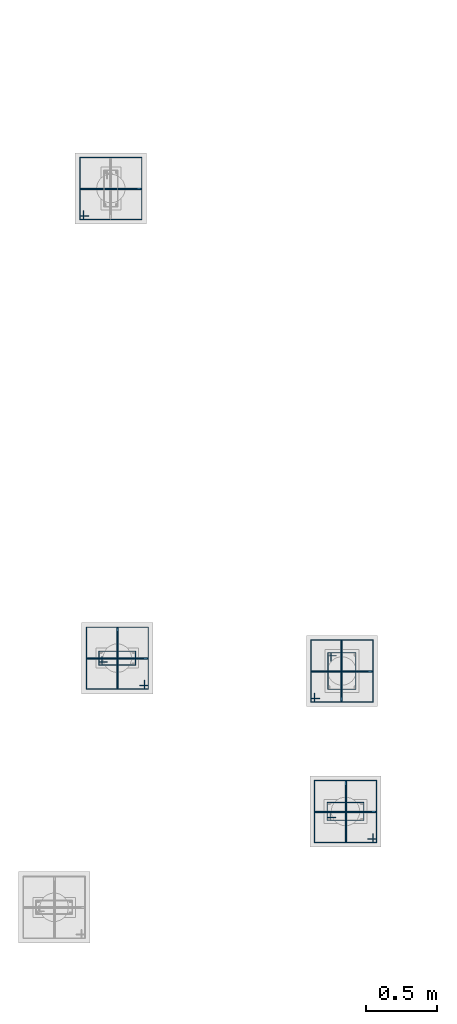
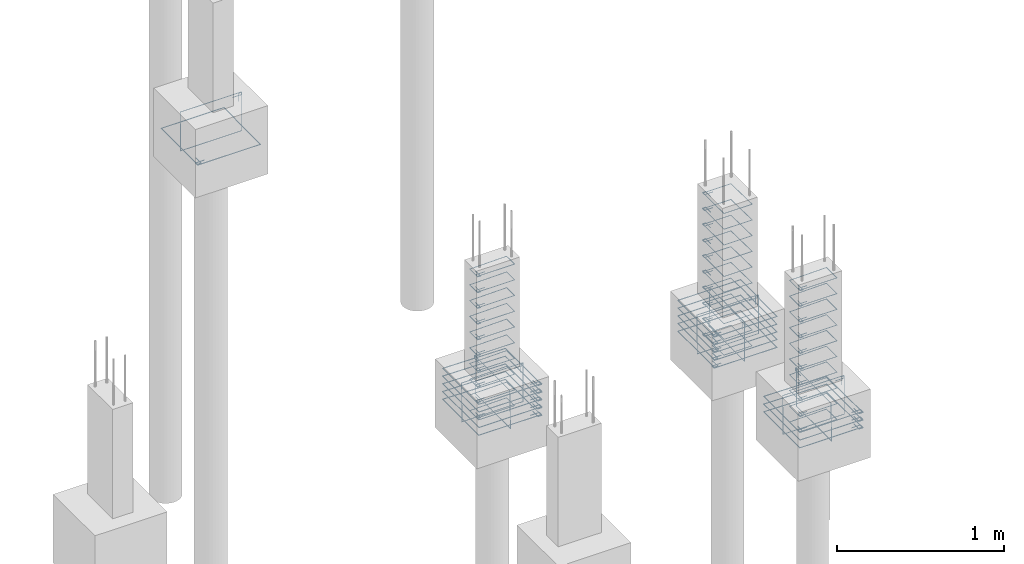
# One storey, part 90 of 119: 51 reinforcing bars.
"""IFC4 building model written with IfcOpenShell, lengths in centimetres."""

from ifc_helpers import new_model, entity, si_unit, derived_unit, frame, origin_with_axes, place, context, project, spatial, source, transform, mapped, element, save


model = new_model("IFC4")

# Units and contexts
model_context = context("Model", 3, precision=1e-05, world=origin_with_axes(), identifier="Body")
ifc_project = project(units=[si_unit("LENGTHUNIT", "METRE", prefix="CENTI"), si_unit("VOLUMEUNIT", "CUBIC_METRE"), si_unit("AREAUNIT", "SQUARE_METRE"), si_unit("POWERUNIT", "WATT"), si_unit("LUMINOUSFLUXUNIT", "LUMEN"), si_unit("ELECTRICCURRENTUNIT", "AMPERE"), si_unit("PRESSUREUNIT", "PASCAL", prefix="KILO"), si_unit("MASSUNIT", "GRAM", prefix="KILO"), si_unit("PLANEANGLEUNIT", "RADIAN"), derived_unit("VOLUMETRICFLOWRATEUNIT", [(si_unit("LENGTHUNIT", "METRE"), 3), (si_unit("TIMEUNIT", "SECOND"), -1)])], contexts=[model_context])

# Site, building, storey
site_placement = place(None, frame((-4000.0, 0.0, 0.0), z_axis=(0.0, 0.0, 1.0), x_axis=(1.0, 0.0, 0.0)))
site = spatial("IfcSite", under=ifc_project, at=site_placement, Name="PADRÃO")
building_placement = place(site_placement, frame((0.0, 0.0, -14.0)))
building = spatial("IfcBuilding", under=site, at=building_placement, Name="CRECHE PRÉ-ESCOLA TIPO 2")
storey_placement = place(building_placement, origin_with_axes())
storey = spatial("IfcBuildingStorey", under=building, at=storey_placement, Name="FUNDAÇÃO", CompositionType="ELEMENT", Elevation=-14.0)

# Reinforcing bars
shared_shape_1 = source(origin_with_axes(), model_context, "Body", "AdvancedSweptSolid", [
    entity("IfcSweptDiskSolid", entity("IfcCompositeCurve", [entity("IfcCompositeCurveSegment", "CONTINUOUS", True, entity("IfcPolyline", [entity("IfcCartesianPoint", [4.25, 21.75, 0.0]), entity("IfcCartesianPoint", [4.25, 27.75, 0.0])])), entity("IfcCompositeCurveSegment", "CONTINUOUS", True, entity("IfcPolyline", [entity("IfcCartesianPoint", [4.25, 27.75, 0.0]), entity("IfcCartesianPoint", [2.25, 27.75, 0.0])])), entity("IfcCompositeCurveSegment", "CONTINUOUS", True, entity("IfcPolyline", [entity("IfcCartesianPoint", [2.25, 27.75, 0.0]), entity("IfcCartesianPoint", [2.25, 2.25, 0.0])])), entity("IfcCompositeCurveSegment", "CONTINUOUS", True, entity("IfcPolyline", [entity("IfcCartesianPoint", [2.25, 2.25, 0.0]), entity("IfcCartesianPoint", [11.75, 2.25, 0.0])])), entity("IfcCompositeCurveSegment", "CONTINUOUS", True, entity("IfcPolyline", [entity("IfcCartesianPoint", [11.75, 2.25, 0.0]), entity("IfcCartesianPoint", [11.75, 27.75, -0.5])])), entity("IfcCompositeCurveSegment", "CONTINUOUS", True, entity("IfcPolyline", [entity("IfcCartesianPoint", [11.75, 27.75, -0.5]), entity("IfcCartesianPoint", [2.25, 27.75, -0.5])])), entity("IfcCompositeCurveSegment", "CONTINUOUS", True, entity("IfcPolyline", [entity("IfcCartesianPoint", [2.25, 27.75, -0.5]), entity("IfcCartesianPoint", [2.25, 25.75, -0.5])])), entity("IfcCompositeCurveSegment", "CONTINUOUS", True, entity("IfcPolyline", [entity("IfcCartesianPoint", [2.25, 25.75, -0.5]), entity("IfcCartesianPoint", [8.25, 25.75, -0.5])]))], False), 0.25),
])
for number, where, z_axis, x_axis, name in (
    (1, (3002.5, 1915.52, -86.25), (0.0, 0.0, 1.0), (0.0, 1.0, 0.0), "P91 - Estribo"),
    (2, (3002.5, 1915.52, -63.25), (0.0, 0.0, 1.0), (0.0, 1.0, 0.0), "P91 - Estribo"),
    (3, (3002.5, 1915.52, -40.25), (0.0, 0.0, 1.0), (0.0, 1.0, 0.0), "P91 - Estribo"),
    (4, (3002.5, 1915.52, -28.75), (0.0, 0.0, 1.0), (0.0, 1.0, 0.0), "P91 - Estribo"),
    (5, (3002.5, 1915.52, -51.75), (0.0, 0.0, 1.0), (0.0, 1.0, 0.0), "P91 - Estribo"),
    (6, (3002.5, 1915.52, -17.25), (0.0, 0.0, 1.0), (0.0, 1.0, 0.0), "P91 - Estribo"),
    (7, (3002.5, 1915.52, -5.75), (0.0, 0.0, 1.0), (0.0, 1.0, 0.0), "P91 - Estribo"),
    (8, (3002.5, 1915.52, -109.25), (0.0, 0.0, 1.0), (0.0, 1.0, 0.0), "P91 - Estribo"),
    (9, (3002.5, 1915.52, -97.75), (0.0, 0.0, 1.0), (0.0, 1.0, 0.0), "P91 - Estribo"),
    (10, (3002.5, 1915.52, -74.75), (0.0, 0.0, 1.0), (0.0, 1.0, 0.0), "P91 - Estribo"),
):
    element("IfcReinforcingBar", number, at=place(storey_placement, frame(where, z_axis=z_axis, x_axis=x_axis)), inside=storey, Name=name, BarLength=0.0, CrossSectionArea=1.9634954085e-05, NominalDiameter=0.5, PredefinedType="MAIN", context=model_context, shape_type="MappedRepresentation", body=[
        mapped(shared_shape_1, transform((0.0, 0.0, 0.0), scale=1.0)),
    ])
shared_shape_2 = source(origin_with_axes(), model_context, "Body", "AdvancedSweptSolid", [
    entity("IfcSweptDiskSolid", entity("IfcCompositeCurve", [entity("IfcCompositeCurveSegment", "CONTINUOUS", True, entity("IfcPolyline", [entity("IfcCartesianPoint", [3006.665, 1907.095, 0.0]), entity("IfcCartesianPoint", [3006.665, 1900.835, 0.0])])), entity("IfcCompositeCurveSegment", "CONTINUOUS", True, entity("IfcPolyline", [entity("IfcCartesianPoint", [3006.665, 1900.835, 0.0]), entity("IfcCartesianPoint", [3009.185, 1900.835, 0.0])])), entity("IfcCompositeCurveSegment", "CONTINUOUS", True, entity("IfcPolyline", [entity("IfcCartesianPoint", [3009.185, 1900.835, 0.0]), entity("IfcCartesianPoint", [3009.185, 1944.205, 0.0])])), entity("IfcCompositeCurveSegment", "CONTINUOUS", True, entity("IfcPolyline", [entity("IfcCartesianPoint", [3009.185, 1944.205, 0.0]), entity("IfcCartesianPoint", [2965.815, 1944.205, 0.63])])), entity("IfcCompositeCurveSegment", "CONTINUOUS", True, entity("IfcPolyline", [entity("IfcCartesianPoint", [2965.815, 1944.205, 0.63]), entity("IfcCartesianPoint", [2965.815, 1900.835, 0.63])])), entity("IfcCompositeCurveSegment", "CONTINUOUS", True, entity("IfcPolyline", [entity("IfcCartesianPoint", [2965.815, 1900.835, 0.63]), entity("IfcCartesianPoint", [3009.185, 1900.835, 0.63])])), entity("IfcCompositeCurveSegment", "CONTINUOUS", True, entity("IfcPolyline", [entity("IfcCartesianPoint", [3009.185, 1900.835, 0.63]), entity("IfcCartesianPoint", [3009.185, 1903.355, 0.63])])), entity("IfcCompositeCurveSegment", "CONTINUOUS", True, entity("IfcPolyline", [entity("IfcCartesianPoint", [3009.185, 1903.355, 0.63]), entity("IfcCartesianPoint", [3002.925, 1903.355, 0.63])]))], False), 0.315),
])
for number, where, z_axis, x_axis, name in (
    (11, (0.0, 0.0, -103.525), (0.0, 0.0, 1.0), (1.0, 0.0, 0.0), "P91 - Blocos (estribos)"),
    (12, (0.0, 0.0, -86.575), (0.0, 0.0, 1.0), (1.0, 0.0, 0.0), "P91 - Blocos (estribos)"),
    (13, (0.0, 0.0, -97.875), (0.0, 0.0, 1.0), (1.0, 0.0, 0.0), "P91 - Blocos (estribos)"),
    (14, (0.0, 0.0, -92.225), (0.0, 0.0, 1.0), (1.0, 0.0, 0.0), "P91 - Blocos (estribos)"),
    (15, (0.0, 0.0, -109.175), (0.0, 0.0, 1.0), (1.0, 0.0, 0.0), "P91 - Blocos (estribos)"),
):
    element("IfcReinforcingBar", number, at=place(storey_placement, frame(where, z_axis=z_axis, x_axis=x_axis)), inside=storey, Name=name, BarLength=0.0, CrossSectionArea=3.1172453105e-05, NominalDiameter=0.63, PredefinedType="MAIN", context=model_context, shape_type="MappedRepresentation", body=[
        mapped(shared_shape_2, transform((0.0, 0.0, 0.0), scale=1.0)),
    ])
shared_shape_3 = source(origin_with_axes(), model_context, "Body", "AdvancedSweptSolid", [
    entity("IfcSweptDiskSolid", entity("IfcCompositeCurve", [entity("IfcCompositeCurveSegment", "CONTINUOUS", True, entity("IfcPolyline", [entity("IfcCartesianPoint", [-15.12, -12.0, 0.0]), entity("IfcCartesianPoint", [-21.12, -12.0, 0.0])])), entity("IfcCompositeCurveSegment", "CONTINUOUS", True, entity("IfcPolyline", [entity("IfcCartesianPoint", [-21.12, -12.0, 0.0]), entity("IfcCartesianPoint", [-21.12, -14.0, 0.0])])), entity("IfcCompositeCurveSegment", "CONTINUOUS", True, entity("IfcPolyline", [entity("IfcCartesianPoint", [-21.12, -14.0, 0.0]), entity("IfcCartesianPoint", [21.12, -14.0, 0.0])])), entity("IfcCompositeCurveSegment", "CONTINUOUS", True, entity("IfcPolyline", [entity("IfcCartesianPoint", [21.12, -14.0, 0.0]), entity("IfcCartesianPoint", [21.12, 14.0, 0.5])])), entity("IfcCompositeCurveSegment", "CONTINUOUS", True, entity("IfcPolyline", [entity("IfcCartesianPoint", [21.12, 14.0, 0.5]), entity("IfcCartesianPoint", [-21.12, 14.0, 0.5])])), entity("IfcCompositeCurveSegment", "CONTINUOUS", True, entity("IfcPolyline", [entity("IfcCartesianPoint", [-21.12, 14.0, 0.5]), entity("IfcCartesianPoint", [-21.12, -14.0, 0.5])])), entity("IfcCompositeCurveSegment", "CONTINUOUS", True, entity("IfcPolyline", [entity("IfcCartesianPoint", [-21.12, -14.0, 0.5]), entity("IfcCartesianPoint", [-19.12, -14.0, 0.5])])), entity("IfcCompositeCurveSegment", "CONTINUOUS", True, entity("IfcPolyline", [entity("IfcCartesianPoint", [-19.12, -14.0, 0.5]), entity("IfcCartesianPoint", [-19.12, -8.0, 0.5])]))], False), 0.25),
])
reinforcing_bar_1_placement = place(storey_placement, frame((2987.5, 1922.52, -97.75), z_axis=(0.0, -1.0, 0.0), x_axis=(-1.0, 0.0, 0.0)))
element("IfcReinforcingBar", 16, at=reinforcing_bar_1_placement, inside=storey, Name="P91 - Blocos (estribos)", BarLength=0.0, CrossSectionArea=1.9634954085e-05, NominalDiameter=0.5, PredefinedType="MAIN", context=model_context, shape_type="MappedRepresentation", body=[
    mapped(shared_shape_3, transform((0.0, 0.0, 0.0), scale=1.0)),
])
shared_shape_4 = source(origin_with_axes(), model_context, "Body", "AdvancedSweptSolid", [
    entity("IfcSweptDiskSolid", entity("IfcCompositeCurve", [entity("IfcCompositeCurveSegment", "CONTINUOUS", True, entity("IfcPolyline", [entity("IfcCartesianPoint", [-15.12, -12.0, 0.0]), entity("IfcCartesianPoint", [-21.12, -12.0, 0.0])])), entity("IfcCompositeCurveSegment", "CONTINUOUS", True, entity("IfcPolyline", [entity("IfcCartesianPoint", [-21.12, -12.0, 0.0]), entity("IfcCartesianPoint", [-21.12, -14.0, 0.0])])), entity("IfcCompositeCurveSegment", "CONTINUOUS", True, entity("IfcPolyline", [entity("IfcCartesianPoint", [-21.12, -14.0, 0.0]), entity("IfcCartesianPoint", [21.12, -14.0, 0.0])])), entity("IfcCompositeCurveSegment", "CONTINUOUS", True, entity("IfcPolyline", [entity("IfcCartesianPoint", [21.12, -14.0, 0.0]), entity("IfcCartesianPoint", [21.12, 14.0, 0.5])])), entity("IfcCompositeCurveSegment", "CONTINUOUS", True, entity("IfcPolyline", [entity("IfcCartesianPoint", [21.12, 14.0, 0.5]), entity("IfcCartesianPoint", [-21.12, 14.0, 0.5])])), entity("IfcCompositeCurveSegment", "CONTINUOUS", True, entity("IfcPolyline", [entity("IfcCartesianPoint", [-21.12, 14.0, 0.5]), entity("IfcCartesianPoint", [-21.12, -14.0, 0.5])])), entity("IfcCompositeCurveSegment", "CONTINUOUS", True, entity("IfcPolyline", [entity("IfcCartesianPoint", [-21.12, -14.0, 0.5]), entity("IfcCartesianPoint", [-19.12, -14.0, 0.5])])), entity("IfcCompositeCurveSegment", "CONTINUOUS", True, entity("IfcPolyline", [entity("IfcCartesianPoint", [-19.12, -14.0, 0.5]), entity("IfcCartesianPoint", [-19.12, -8.0, 0.5])]))], False), 0.25),
])
reinforcing_bar_2_placement = place(storey_placement, frame((2987.5, 1922.52, -97.75), z_axis=(1.0, 0.0, 0.0), x_axis=(0.0, -1.0, 0.0)))
element("IfcReinforcingBar", 17, at=reinforcing_bar_2_placement, inside=storey, Name="P91 - Blocos (estribos)", BarLength=0.0, CrossSectionArea=1.9634954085e-05, NominalDiameter=0.5, PredefinedType="MAIN", context=model_context, shape_type="MappedRepresentation", body=[
    mapped(shared_shape_4, transform((0.0, 0.0, 0.0), scale=1.0)),
])
shared_shape_5 = source(origin_with_axes(), model_context, "Body", "AdvancedSweptSolid", [
    entity("IfcSweptDiskSolid", entity("IfcCompositeCurve", [entity("IfcCompositeCurveSegment", "CONTINUOUS", True, entity("IfcPolyline", [entity("IfcCartesianPoint", [4.25, 21.75, 0.0]), entity("IfcCartesianPoint", [4.25, 27.75, 0.0])])), entity("IfcCompositeCurveSegment", "CONTINUOUS", True, entity("IfcPolyline", [entity("IfcCartesianPoint", [4.25, 27.75, 0.0]), entity("IfcCartesianPoint", [2.25, 27.75, 0.0])])), entity("IfcCompositeCurveSegment", "CONTINUOUS", True, entity("IfcPolyline", [entity("IfcCartesianPoint", [2.25, 27.75, 0.0]), entity("IfcCartesianPoint", [2.25, 2.25, 0.0])])), entity("IfcCompositeCurveSegment", "CONTINUOUS", True, entity("IfcPolyline", [entity("IfcCartesianPoint", [2.25, 2.25, 0.0]), entity("IfcCartesianPoint", [14.75, 2.25, 0.0])])), entity("IfcCompositeCurveSegment", "CONTINUOUS", True, entity("IfcPolyline", [entity("IfcCartesianPoint", [14.75, 2.25, 0.0]), entity("IfcCartesianPoint", [14.75, 27.75, -0.5])])), entity("IfcCompositeCurveSegment", "CONTINUOUS", True, entity("IfcPolyline", [entity("IfcCartesianPoint", [14.75, 27.75, -0.5]), entity("IfcCartesianPoint", [2.25, 27.75, -0.5])])), entity("IfcCompositeCurveSegment", "CONTINUOUS", True, entity("IfcPolyline", [entity("IfcCartesianPoint", [2.25, 27.75, -0.5]), entity("IfcCartesianPoint", [2.25, 25.75, -0.5])])), entity("IfcCompositeCurveSegment", "CONTINUOUS", True, entity("IfcPolyline", [entity("IfcCartesianPoint", [2.25, 25.75, -0.5]), entity("IfcCartesianPoint", [8.25, 25.75, -0.5])]))], False), 0.25),
])
for number, where, z_axis, x_axis, name in (
    (18, (3162.5, 1806.52, -109.25), (0.0, 0.0, 1.0), (0.0, 1.0, 0.0), "P96 - Estribo"),
    (19, (3162.5, 1806.52, -97.75), (0.0, 0.0, 1.0), (0.0, 1.0, 0.0), "P96 - Estribo"),
    (20, (3162.5, 1806.52, -86.25), (0.0, 0.0, 1.0), (0.0, 1.0, 0.0), "P96 - Estribo"),
    (21, (3162.5, 1806.52, -28.75), (0.0, 0.0, 1.0), (0.0, 1.0, 0.0), "P96 - Estribo"),
    (22, (3162.5, 1806.52, -40.25), (0.0, 0.0, 1.0), (0.0, 1.0, 0.0), "P96 - Estribo"),
    (23, (3162.5, 1806.52, -51.75), (0.0, 0.0, 1.0), (0.0, 1.0, 0.0), "P96 - Estribo"),
    (24, (3162.5, 1806.52, -63.25), (0.0, 0.0, 1.0), (0.0, 1.0, 0.0), "P96 - Estribo"),
    (25, (3162.5, 1806.52, -74.75), (0.0, 0.0, 1.0), (0.0, 1.0, 0.0), "P96 - Estribo"),
    (26, (3162.5, 1806.52, -17.25), (0.0, 0.0, 1.0), (0.0, 1.0, 0.0), "P96 - Estribo"),
    (27, (3162.5, 1806.52, -5.75), (0.0, 0.0, 1.0), (0.0, 1.0, 0.0), "P96 - Estribo"),
):
    element("IfcReinforcingBar", number, at=place(storey_placement, frame(where, z_axis=z_axis, x_axis=x_axis)), inside=storey, Name=name, BarLength=0.0, CrossSectionArea=1.9634954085e-05, NominalDiameter=0.5, PredefinedType="MAIN", context=model_context, shape_type="MappedRepresentation", body=[
        mapped(shared_shape_5, transform((0.0, 0.0, 0.0), scale=1.0)),
    ])
shared_shape_6 = source(origin_with_axes(), model_context, "Body", "AdvancedSweptSolid", [
    entity("IfcSweptDiskSolid", entity("IfcCompositeCurve", [entity("IfcCompositeCurveSegment", "CONTINUOUS", True, entity("IfcPolyline", [entity("IfcCartesianPoint", [3166.665, 1799.595, 0.0]), entity("IfcCartesianPoint", [3166.665, 1793.335, 0.0])])), entity("IfcCompositeCurveSegment", "CONTINUOUS", True, entity("IfcPolyline", [entity("IfcCartesianPoint", [3166.665, 1793.335, 0.0]), entity("IfcCartesianPoint", [3169.185, 1793.335, 0.0])])), entity("IfcCompositeCurveSegment", "CONTINUOUS", True, entity("IfcPolyline", [entity("IfcCartesianPoint", [3169.185, 1793.335, 0.0]), entity("IfcCartesianPoint", [3169.185, 1836.705, 0.0])])), entity("IfcCompositeCurveSegment", "CONTINUOUS", True, entity("IfcPolyline", [entity("IfcCartesianPoint", [3169.185, 1836.705, 0.0]), entity("IfcCartesianPoint", [3125.815, 1836.705, 0.63])])), entity("IfcCompositeCurveSegment", "CONTINUOUS", True, entity("IfcPolyline", [entity("IfcCartesianPoint", [3125.815, 1836.705, 0.63]), entity("IfcCartesianPoint", [3125.815, 1793.335, 0.63])])), entity("IfcCompositeCurveSegment", "CONTINUOUS", True, entity("IfcPolyline", [entity("IfcCartesianPoint", [3125.815, 1793.335, 0.63]), entity("IfcCartesianPoint", [3169.185, 1793.335, 0.63])])), entity("IfcCompositeCurveSegment", "CONTINUOUS", True, entity("IfcPolyline", [entity("IfcCartesianPoint", [3169.185, 1793.335, 0.63]), entity("IfcCartesianPoint", [3169.185, 1795.855, 0.63])])), entity("IfcCompositeCurveSegment", "CONTINUOUS", True, entity("IfcPolyline", [entity("IfcCartesianPoint", [3169.185, 1795.855, 0.63]), entity("IfcCartesianPoint", [3162.925, 1795.855, 0.63])]))], False), 0.315),
])
for number, where, z_axis, x_axis, name in (
    (28, (0.0, 0.0, -109.175), (0.0, 0.0, 1.0), (1.0, 0.0, 0.0), "P96 - Blocos (estribos)"),
    (29, (0.0, 0.0, -103.525), (0.0, 0.0, 1.0), (1.0, 0.0, 0.0), "P96 - Blocos (estribos)"),
    (30, (0.0, 0.0, -97.875), (0.0, 0.0, 1.0), (1.0, 0.0, 0.0), "P96 - Blocos (estribos)"),
):
    element("IfcReinforcingBar", number, at=place(storey_placement, frame(where, z_axis=z_axis, x_axis=x_axis)), inside=storey, Name=name, BarLength=0.0, CrossSectionArea=3.1172453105e-05, NominalDiameter=0.63, PredefinedType="MAIN", context=model_context, shape_type="MappedRepresentation", body=[
        mapped(shared_shape_6, transform((0.0, 0.0, 0.0), scale=1.0)),
    ])
shared_shape_7 = source(origin_with_axes(), model_context, "Body", "AdvancedSweptSolid", [
    entity("IfcSweptDiskSolid", entity("IfcCompositeCurve", [entity("IfcCompositeCurveSegment", "CONTINUOUS", True, entity("IfcPolyline", [entity("IfcCartesianPoint", [-15.12, -12.0, 0.0]), entity("IfcCartesianPoint", [-21.12, -12.0, 0.0])])), entity("IfcCompositeCurveSegment", "CONTINUOUS", True, entity("IfcPolyline", [entity("IfcCartesianPoint", [-21.12, -12.0, 0.0]), entity("IfcCartesianPoint", [-21.12, -14.0, 0.0])])), entity("IfcCompositeCurveSegment", "CONTINUOUS", True, entity("IfcPolyline", [entity("IfcCartesianPoint", [-21.12, -14.0, 0.0]), entity("IfcCartesianPoint", [21.12, -14.0, 0.0])])), entity("IfcCompositeCurveSegment", "CONTINUOUS", True, entity("IfcPolyline", [entity("IfcCartesianPoint", [21.12, -14.0, 0.0]), entity("IfcCartesianPoint", [21.12, 14.0, 0.5])])), entity("IfcCompositeCurveSegment", "CONTINUOUS", True, entity("IfcPolyline", [entity("IfcCartesianPoint", [21.12, 14.0, 0.5]), entity("IfcCartesianPoint", [-21.12, 14.0, 0.5])])), entity("IfcCompositeCurveSegment", "CONTINUOUS", True, entity("IfcPolyline", [entity("IfcCartesianPoint", [-21.12, 14.0, 0.5]), entity("IfcCartesianPoint", [-21.12, -14.0, 0.5])])), entity("IfcCompositeCurveSegment", "CONTINUOUS", True, entity("IfcPolyline", [entity("IfcCartesianPoint", [-21.12, -14.0, 0.5]), entity("IfcCartesianPoint", [-19.12, -14.0, 0.5])])), entity("IfcCompositeCurveSegment", "CONTINUOUS", True, entity("IfcPolyline", [entity("IfcCartesianPoint", [-19.12, -14.0, 0.5]), entity("IfcCartesianPoint", [-19.12, -8.0, 0.5])]))], False), 0.25),
])
reinforcing_bar_3_placement = place(storey_placement, frame((3147.5, 1815.02, -97.75), z_axis=(0.0, -1.0, 0.0), x_axis=(-1.0, 0.0, 0.0)))
element("IfcReinforcingBar", 31, at=reinforcing_bar_3_placement, inside=storey, Name="P96 - Blocos (estribos)", BarLength=0.0, CrossSectionArea=1.9634954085e-05, NominalDiameter=0.5, PredefinedType="MAIN", context=model_context, shape_type="MappedRepresentation", body=[
    mapped(shared_shape_7, transform((0.0, 0.0, 0.0), scale=1.0)),
])
shared_shape_8 = source(origin_with_axes(), model_context, "Body", "AdvancedSweptSolid", [
    entity("IfcSweptDiskSolid", entity("IfcCompositeCurve", [entity("IfcCompositeCurveSegment", "CONTINUOUS", True, entity("IfcPolyline", [entity("IfcCartesianPoint", [-15.12, -12.0, 0.0]), entity("IfcCartesianPoint", [-21.12, -12.0, 0.0])])), entity("IfcCompositeCurveSegment", "CONTINUOUS", True, entity("IfcPolyline", [entity("IfcCartesianPoint", [-21.12, -12.0, 0.0]), entity("IfcCartesianPoint", [-21.12, -14.0, 0.0])])), entity("IfcCompositeCurveSegment", "CONTINUOUS", True, entity("IfcPolyline", [entity("IfcCartesianPoint", [-21.12, -14.0, 0.0]), entity("IfcCartesianPoint", [21.12, -14.0, 0.0])])), entity("IfcCompositeCurveSegment", "CONTINUOUS", True, entity("IfcPolyline", [entity("IfcCartesianPoint", [21.12, -14.0, 0.0]), entity("IfcCartesianPoint", [21.12, 14.0, 0.5])])), entity("IfcCompositeCurveSegment", "CONTINUOUS", True, entity("IfcPolyline", [entity("IfcCartesianPoint", [21.12, 14.0, 0.5]), entity("IfcCartesianPoint", [-21.12, 14.0, 0.5])])), entity("IfcCompositeCurveSegment", "CONTINUOUS", True, entity("IfcPolyline", [entity("IfcCartesianPoint", [-21.12, 14.0, 0.5]), entity("IfcCartesianPoint", [-21.12, -14.0, 0.5])])), entity("IfcCompositeCurveSegment", "CONTINUOUS", True, entity("IfcPolyline", [entity("IfcCartesianPoint", [-21.12, -14.0, 0.5]), entity("IfcCartesianPoint", [-19.12, -14.0, 0.5])])), entity("IfcCompositeCurveSegment", "CONTINUOUS", True, entity("IfcPolyline", [entity("IfcCartesianPoint", [-19.12, -14.0, 0.5]), entity("IfcCartesianPoint", [-19.12, -8.0, 0.5])]))], False), 0.25),
])
reinforcing_bar_4_placement = place(storey_placement, frame((3147.5, 1815.02, -97.75), z_axis=(1.0, 0.0, 0.0), x_axis=(0.0, -1.0, 0.0)))
element("IfcReinforcingBar", 32, at=reinforcing_bar_4_placement, inside=storey, Name="P96 - Blocos (estribos)", BarLength=0.0, CrossSectionArea=1.9634954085e-05, NominalDiameter=0.5, PredefinedType="MAIN", context=model_context, shape_type="MappedRepresentation", body=[
    mapped(shared_shape_8, transform((0.0, 0.0, 0.0), scale=1.0)),
])
shared_shape_9 = source(origin_with_axes(), model_context, "Body", "AdvancedSweptSolid", [
    entity("IfcSweptDiskSolid", entity("IfcCompositeCurve", [entity("IfcCompositeCurveSegment", "CONTINUOUS", True, entity("IfcPolyline", [entity("IfcCartesianPoint", [2967.575, 2232.605, 0.0]), entity("IfcCartesianPoint", [2961.315, 2232.605, 0.0])])), entity("IfcCompositeCurveSegment", "CONTINUOUS", True, entity("IfcPolyline", [entity("IfcCartesianPoint", [2961.315, 2232.605, 0.0]), entity("IfcCartesianPoint", [2961.315, 2230.085, 0.0])])), entity("IfcCompositeCurveSegment", "CONTINUOUS", True, entity("IfcPolyline", [entity("IfcCartesianPoint", [2961.315, 2230.085, 0.0]), entity("IfcCartesianPoint", [3004.685, 2230.085, 0.0])])), entity("IfcCompositeCurveSegment", "CONTINUOUS", True, entity("IfcPolyline", [entity("IfcCartesianPoint", [3004.685, 2230.085, 0.0]), entity("IfcCartesianPoint", [3004.685, 2273.455, 0.63])])), entity("IfcCompositeCurveSegment", "CONTINUOUS", True, entity("IfcPolyline", [entity("IfcCartesianPoint", [3004.685, 2273.455, 0.63]), entity("IfcCartesianPoint", [2961.315, 2273.455, 0.63])])), entity("IfcCompositeCurveSegment", "CONTINUOUS", True, entity("IfcPolyline", [entity("IfcCartesianPoint", [2961.315, 2273.455, 0.63]), entity("IfcCartesianPoint", [2961.315, 2230.085, 0.63])])), entity("IfcCompositeCurveSegment", "CONTINUOUS", True, entity("IfcPolyline", [entity("IfcCartesianPoint", [2961.315, 2230.085, 0.63]), entity("IfcCartesianPoint", [2963.835, 2230.085, 0.63])])), entity("IfcCompositeCurveSegment", "CONTINUOUS", True, entity("IfcPolyline", [entity("IfcCartesianPoint", [2963.835, 2230.085, 0.63]), entity("IfcCartesianPoint", [2963.835, 2236.345, 0.63])]))], False), 0.315),
])
reinforcing_bar_5_placement = place(storey_placement, frame((0.0, 0.0, -109.175), z_axis=(0.0, 0.0, 1.0), x_axis=(1.0, 0.0, 0.0)))
element("IfcReinforcingBar", 33, at=reinforcing_bar_5_placement, inside=storey, Name="P80 - Blocos (estribos)", BarLength=0.0, CrossSectionArea=3.1172453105e-05, NominalDiameter=0.63, PredefinedType="MAIN", context=model_context, shape_type="MappedRepresentation", body=[
    mapped(shared_shape_9, transform((0.0, 0.0, 0.0), scale=1.0)),
])
shared_shape_10 = source(origin_with_axes(), model_context, "Body", "AdvancedSweptSolid", [
    entity("IfcSweptDiskSolid", entity("IfcCompositeCurve", [entity("IfcCompositeCurveSegment", "CONTINUOUS", True, entity("IfcPolyline", [entity("IfcCartesianPoint", [-15.12, -12.0, 0.0]), entity("IfcCartesianPoint", [-21.12, -12.0, 0.0])])), entity("IfcCompositeCurveSegment", "CONTINUOUS", True, entity("IfcPolyline", [entity("IfcCartesianPoint", [-21.12, -12.0, 0.0]), entity("IfcCartesianPoint", [-21.12, -14.0, 0.0])])), entity("IfcCompositeCurveSegment", "CONTINUOUS", True, entity("IfcPolyline", [entity("IfcCartesianPoint", [-21.12, -14.0, 0.0]), entity("IfcCartesianPoint", [21.12, -14.0, 0.0])])), entity("IfcCompositeCurveSegment", "CONTINUOUS", True, entity("IfcPolyline", [entity("IfcCartesianPoint", [21.12, -14.0, 0.0]), entity("IfcCartesianPoint", [21.12, 14.0, 0.5])])), entity("IfcCompositeCurveSegment", "CONTINUOUS", True, entity("IfcPolyline", [entity("IfcCartesianPoint", [21.12, 14.0, 0.5]), entity("IfcCartesianPoint", [-21.12, 14.0, 0.5])])), entity("IfcCompositeCurveSegment", "CONTINUOUS", True, entity("IfcPolyline", [entity("IfcCartesianPoint", [-21.12, 14.0, 0.5]), entity("IfcCartesianPoint", [-21.12, -14.0, 0.5])])), entity("IfcCompositeCurveSegment", "CONTINUOUS", True, entity("IfcPolyline", [entity("IfcCartesianPoint", [-21.12, -14.0, 0.5]), entity("IfcCartesianPoint", [-19.12, -14.0, 0.5])])), entity("IfcCompositeCurveSegment", "CONTINUOUS", True, entity("IfcPolyline", [entity("IfcCartesianPoint", [-19.12, -14.0, 0.5]), entity("IfcCartesianPoint", [-19.12, -8.0, 0.5])]))], False), 0.25),
])
reinforcing_bar_6_placement = place(storey_placement, frame((2983.0, 2251.77, -97.75), z_axis=(0.0, -1.0, 0.0), x_axis=(-1.0, 0.0, 0.0)))
element("IfcReinforcingBar", 34, at=reinforcing_bar_6_placement, inside=storey, Name="P80 - Blocos (estribos)", BarLength=0.0, CrossSectionArea=1.9634954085e-05, NominalDiameter=0.5, PredefinedType="MAIN", context=model_context, shape_type="MappedRepresentation", body=[
    mapped(shared_shape_10, transform((0.0, 0.0, 0.0), scale=1.0)),
])
shared_shape_11 = source(origin_with_axes(), model_context, "Body", "AdvancedSweptSolid", [
    entity("IfcSweptDiskSolid", entity("IfcCompositeCurve", [entity("IfcCompositeCurveSegment", "CONTINUOUS", True, entity("IfcPolyline", [entity("IfcCartesianPoint", [4.25, 21.75, 0.0]), entity("IfcCartesianPoint", [4.25, 27.75, 0.0])])), entity("IfcCompositeCurveSegment", "CONTINUOUS", True, entity("IfcPolyline", [entity("IfcCartesianPoint", [4.25, 27.75, 0.0]), entity("IfcCartesianPoint", [2.25, 27.75, 0.0])])), entity("IfcCompositeCurveSegment", "CONTINUOUS", True, entity("IfcPolyline", [entity("IfcCartesianPoint", [2.25, 27.75, 0.0]), entity("IfcCartesianPoint", [2.25, 2.25, 0.0])])), entity("IfcCompositeCurveSegment", "CONTINUOUS", True, entity("IfcPolyline", [entity("IfcCartesianPoint", [2.25, 2.25, 0.0]), entity("IfcCartesianPoint", [21.75, 2.25, 0.0])])), entity("IfcCompositeCurveSegment", "CONTINUOUS", True, entity("IfcPolyline", [entity("IfcCartesianPoint", [21.75, 2.25, 0.0]), entity("IfcCartesianPoint", [21.75, 27.75, -0.5])])), entity("IfcCompositeCurveSegment", "CONTINUOUS", True, entity("IfcPolyline", [entity("IfcCartesianPoint", [21.75, 27.75, -0.5]), entity("IfcCartesianPoint", [2.25, 27.75, -0.5])])), entity("IfcCompositeCurveSegment", "CONTINUOUS", True, entity("IfcPolyline", [entity("IfcCartesianPoint", [2.25, 27.75, -0.5]), entity("IfcCartesianPoint", [2.25, 25.75, -0.5])])), entity("IfcCompositeCurveSegment", "CONTINUOUS", True, entity("IfcPolyline", [entity("IfcCartesianPoint", [2.25, 25.75, -0.5]), entity("IfcCartesianPoint", [8.25, 25.75, -0.5])]))], False), 0.25),
])
for number, where, z_axis, x_axis, name in (
    (35, (3133.02, 1898.52, -86.25), (0.0, 0.0, 1.0), (1.0, 0.0, 0.0), "P92 - Estribo"),
    (36, (3133.02, 1898.52, -74.75), (0.0, 0.0, 1.0), (1.0, 0.0, 0.0), "P92 - Estribo"),
    (37, (3133.02, 1898.52, -40.25), (0.0, 0.0, 1.0), (1.0, 0.0, 0.0), "P92 - Estribo"),
    (38, (3133.02, 1898.52, -63.25), (0.0, 0.0, 1.0), (1.0, 0.0, 0.0), "P92 - Estribo"),
    (39, (3133.02, 1898.52, -51.75), (0.0, 0.0, 1.0), (1.0, 0.0, 0.0), "P92 - Estribo"),
    (40, (3133.02, 1898.52, -28.75), (0.0, 0.0, 1.0), (1.0, 0.0, 0.0), "P92 - Estribo"),
    (41, (3133.02, 1898.52, -5.75), (0.0, 0.0, 1.0), (1.0, 0.0, 0.0), "P92 - Estribo"),
    (42, (3133.02, 1898.52, -109.25), (0.0, 0.0, 1.0), (1.0, 0.0, 0.0), "P92 - Estribo"),
    (43, (3133.02, 1898.52, -97.75), (0.0, 0.0, 1.0), (1.0, 0.0, 0.0), "P92 - Estribo"),
    (44, (3133.02, 1898.52, -17.25), (0.0, 0.0, 1.0), (1.0, 0.0, 0.0), "P92 - Estribo"),
):
    element("IfcReinforcingBar", number, at=place(storey_placement, frame(where, z_axis=z_axis, x_axis=x_axis)), inside=storey, Name=name, BarLength=0.0, CrossSectionArea=1.9634954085e-05, NominalDiameter=0.5, PredefinedType="MAIN", context=model_context, shape_type="MappedRepresentation", body=[
        mapped(shared_shape_11, transform((0.0, 0.0, 0.0), scale=1.0)),
    ])
shared_shape_12 = source(origin_with_axes(), model_context, "Body", "AdvancedSweptSolid", [
    entity("IfcSweptDiskSolid", entity("IfcCompositeCurve", [entity("IfcCompositeCurveSegment", "CONTINUOUS", True, entity("IfcPolyline", [entity("IfcCartesianPoint", [3129.595, 1894.355, 0.0]), entity("IfcCartesianPoint", [3123.335, 1894.355, 0.0])])), entity("IfcCompositeCurveSegment", "CONTINUOUS", True, entity("IfcPolyline", [entity("IfcCartesianPoint", [3123.335, 1894.355, 0.0]), entity("IfcCartesianPoint", [3123.335, 1891.835, 0.0])])), entity("IfcCompositeCurveSegment", "CONTINUOUS", True, entity("IfcPolyline", [entity("IfcCartesianPoint", [3123.335, 1891.835, 0.0]), entity("IfcCartesianPoint", [3166.705, 1891.835, 0.0])])), entity("IfcCompositeCurveSegment", "CONTINUOUS", True, entity("IfcPolyline", [entity("IfcCartesianPoint", [3166.705, 1891.835, 0.0]), entity("IfcCartesianPoint", [3166.705, 1935.205, 0.63])])), entity("IfcCompositeCurveSegment", "CONTINUOUS", True, entity("IfcPolyline", [entity("IfcCartesianPoint", [3166.705, 1935.205, 0.63]), entity("IfcCartesianPoint", [3123.335, 1935.205, 0.63])])), entity("IfcCompositeCurveSegment", "CONTINUOUS", True, entity("IfcPolyline", [entity("IfcCartesianPoint", [3123.335, 1935.205, 0.63]), entity("IfcCartesianPoint", [3123.335, 1891.835, 0.63])])), entity("IfcCompositeCurveSegment", "CONTINUOUS", True, entity("IfcPolyline", [entity("IfcCartesianPoint", [3123.335, 1891.835, 0.63]), entity("IfcCartesianPoint", [3125.855, 1891.835, 0.63])])), entity("IfcCompositeCurveSegment", "CONTINUOUS", True, entity("IfcPolyline", [entity("IfcCartesianPoint", [3125.855, 1891.835, 0.63]), entity("IfcCartesianPoint", [3125.855, 1898.095, 0.63])]))], False), 0.315),
])
for number, where, z_axis, x_axis, name in (
    (45, (0.0, 0.0, -86.575), (0.0, 0.0, 1.0), (1.0, 0.0, 0.0), "P92 - Blocos (estribos)"),
    (46, (0.0, 0.0, -97.875), (0.0, 0.0, 1.0), (1.0, 0.0, 0.0), "P92 - Blocos (estribos)"),
    (47, (0.0, 0.0, -103.525), (0.0, 0.0, 1.0), (1.0, 0.0, 0.0), "P92 - Blocos (estribos)"),
    (48, (0.0, 0.0, -109.175), (0.0, 0.0, 1.0), (1.0, 0.0, 0.0), "P92 - Blocos (estribos)"),
    (49, (0.0, 0.0, -92.225), (0.0, 0.0, 1.0), (1.0, 0.0, 0.0), "P92 - Blocos (estribos)"),
):
    element("IfcReinforcingBar", number, at=place(storey_placement, frame(where, z_axis=z_axis, x_axis=x_axis)), inside=storey, Name=name, BarLength=0.0, CrossSectionArea=3.1172453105e-05, NominalDiameter=0.63, PredefinedType="MAIN", context=model_context, shape_type="MappedRepresentation", body=[
        mapped(shared_shape_12, transform((0.0, 0.0, 0.0), scale=1.0)),
    ])
shared_shape_13 = source(origin_with_axes(), model_context, "Body", "AdvancedSweptSolid", [
    entity("IfcSweptDiskSolid", entity("IfcCompositeCurve", [entity("IfcCompositeCurveSegment", "CONTINUOUS", True, entity("IfcPolyline", [entity("IfcCartesianPoint", [-15.12, -12.0, 0.0]), entity("IfcCartesianPoint", [-21.12, -12.0, 0.0])])), entity("IfcCompositeCurveSegment", "CONTINUOUS", True, entity("IfcPolyline", [entity("IfcCartesianPoint", [-21.12, -12.0, 0.0]), entity("IfcCartesianPoint", [-21.12, -14.0, 0.0])])), entity("IfcCompositeCurveSegment", "CONTINUOUS", True, entity("IfcPolyline", [entity("IfcCartesianPoint", [-21.12, -14.0, 0.0]), entity("IfcCartesianPoint", [21.12, -14.0, 0.0])])), entity("IfcCompositeCurveSegment", "CONTINUOUS", True, entity("IfcPolyline", [entity("IfcCartesianPoint", [21.12, -14.0, 0.0]), entity("IfcCartesianPoint", [21.12, 14.0, 0.5])])), entity("IfcCompositeCurveSegment", "CONTINUOUS", True, entity("IfcPolyline", [entity("IfcCartesianPoint", [21.12, 14.0, 0.5]), entity("IfcCartesianPoint", [-21.12, 14.0, 0.5])])), entity("IfcCompositeCurveSegment", "CONTINUOUS", True, entity("IfcPolyline", [entity("IfcCartesianPoint", [-21.12, 14.0, 0.5]), entity("IfcCartesianPoint", [-21.12, -14.0, 0.5])])), entity("IfcCompositeCurveSegment", "CONTINUOUS", True, entity("IfcPolyline", [entity("IfcCartesianPoint", [-21.12, -14.0, 0.5]), entity("IfcCartesianPoint", [-19.12, -14.0, 0.5])])), entity("IfcCompositeCurveSegment", "CONTINUOUS", True, entity("IfcPolyline", [entity("IfcCartesianPoint", [-19.12, -14.0, 0.5]), entity("IfcCartesianPoint", [-19.12, -8.0, 0.5])]))], False), 0.25),
])
reinforcing_bar_7_placement = place(storey_placement, frame((3145.02, 1913.52, -97.75), z_axis=(-1.0, 0.0, 0.0), x_axis=(0.0, 1.0, 0.0)))
element("IfcReinforcingBar", 50, at=reinforcing_bar_7_placement, inside=storey, Name="P92 - Blocos (estribos)", BarLength=0.0, CrossSectionArea=1.9634954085e-05, NominalDiameter=0.5, PredefinedType="MAIN", context=model_context, shape_type="MappedRepresentation", body=[
    mapped(shared_shape_13, transform((0.0, 0.0, 0.0), scale=1.0)),
])
shared_shape_14 = source(origin_with_axes(), model_context, "Body", "AdvancedSweptSolid", [
    entity("IfcSweptDiskSolid", entity("IfcCompositeCurve", [entity("IfcCompositeCurveSegment", "CONTINUOUS", True, entity("IfcPolyline", [entity("IfcCartesianPoint", [-15.12, -12.0, 0.0]), entity("IfcCartesianPoint", [-21.12, -12.0, 0.0])])), entity("IfcCompositeCurveSegment", "CONTINUOUS", True, entity("IfcPolyline", [entity("IfcCartesianPoint", [-21.12, -12.0, 0.0]), entity("IfcCartesianPoint", [-21.12, -14.0, 0.0])])), entity("IfcCompositeCurveSegment", "CONTINUOUS", True, entity("IfcPolyline", [entity("IfcCartesianPoint", [-21.12, -14.0, 0.0]), entity("IfcCartesianPoint", [21.12, -14.0, 0.0])])), entity("IfcCompositeCurveSegment", "CONTINUOUS", True, entity("IfcPolyline", [entity("IfcCartesianPoint", [21.12, -14.0, 0.0]), entity("IfcCartesianPoint", [21.12, 14.0, 0.5])])), entity("IfcCompositeCurveSegment", "CONTINUOUS", True, entity("IfcPolyline", [entity("IfcCartesianPoint", [21.12, 14.0, 0.5]), entity("IfcCartesianPoint", [-21.12, 14.0, 0.5])])), entity("IfcCompositeCurveSegment", "CONTINUOUS", True, entity("IfcPolyline", [entity("IfcCartesianPoint", [-21.12, 14.0, 0.5]), entity("IfcCartesianPoint", [-21.12, -14.0, 0.5])])), entity("IfcCompositeCurveSegment", "CONTINUOUS", True, entity("IfcPolyline", [entity("IfcCartesianPoint", [-21.12, -14.0, 0.5]), entity("IfcCartesianPoint", [-19.12, -14.0, 0.5])])), entity("IfcCompositeCurveSegment", "CONTINUOUS", True, entity("IfcPolyline", [entity("IfcCartesianPoint", [-19.12, -14.0, 0.5]), entity("IfcCartesianPoint", [-19.12, -8.0, 0.5])]))], False), 0.25),
])
reinforcing_bar_8_placement = place(storey_placement, frame((3145.02, 1913.52, -97.75), z_axis=(0.0, -1.0, 0.0), x_axis=(-1.0, 0.0, 0.0)))
element("IfcReinforcingBar", 51, at=reinforcing_bar_8_placement, inside=storey, Name="P92 - Blocos (estribos)", BarLength=0.0, CrossSectionArea=1.9634954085e-05, NominalDiameter=0.5, PredefinedType="MAIN", context=model_context, shape_type="MappedRepresentation", body=[
    mapped(shared_shape_14, transform((0.0, 0.0, 0.0), scale=1.0)),
])

save(model, "model.ifc")
